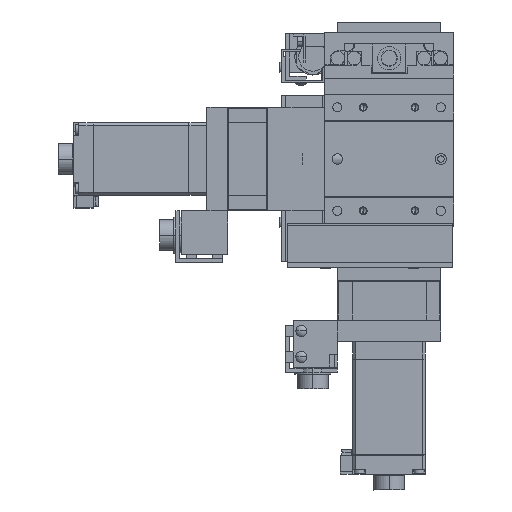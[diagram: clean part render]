
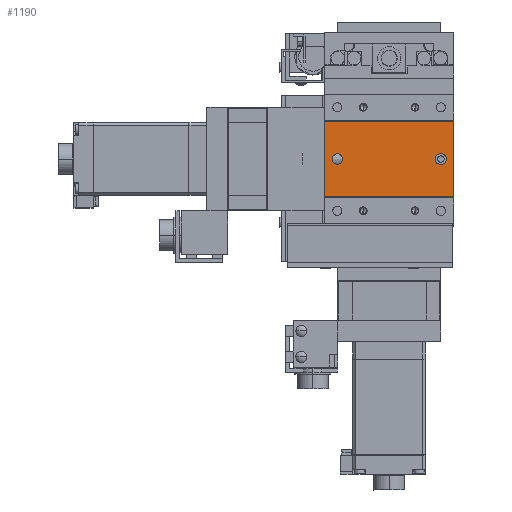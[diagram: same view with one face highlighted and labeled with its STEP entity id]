
A CAD part, front view. The second image highlights one B-rep face of the part: STEP entity #1190.
In plain terms, the highlighted planar face has unit normal (0, -1, 0).
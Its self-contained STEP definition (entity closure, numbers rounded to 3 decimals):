
#1190=ADVANCED_FACE('',(#3590,#3591,#3592),#3593,.F.);
#3590=FACE_BOUND('',#8130,.T.);
#3591=FACE_OUTER_BOUND('',#8131,.T.);
#3592=FACE_BOUND('',#8132,.T.);
#3593=PLANE('',#8133);
#8130=EDGE_LOOP('',(#14139,#14140,#14141,#14142));
#8131=EDGE_LOOP('',(#14143,#14144,#14145,#14146));
#8132=EDGE_LOOP('',(#14147,#14148,#14149));
#8133=AXIS2_PLACEMENT_3D('',#14150,#14151,#14152);
#14139=ORIENTED_EDGE('',*,*,#29898,.F.);
#14140=ORIENTED_EDGE('',*,*,#29899,.F.);
#14141=ORIENTED_EDGE('',*,*,#29900,.F.);
#14142=ORIENTED_EDGE('',*,*,#29901,.F.);
#14143=ORIENTED_EDGE('',*,*,#29883,.T.);
#14144=ORIENTED_EDGE('',*,*,#29902,.F.);
#14145=ORIENTED_EDGE('',*,*,#29903,.F.);
#14146=ORIENTED_EDGE('',*,*,#29904,.T.);
#14147=ORIENTED_EDGE('',*,*,#29788,.F.);
#14148=ORIENTED_EDGE('',*,*,#29787,.F.);
#14149=ORIENTED_EDGE('',*,*,#29905,.F.);
#14150=CARTESIAN_POINT('',(-25.,0.35,-14.65));
#14151=DIRECTION('',(0.,1.0,0.));
#14152=DIRECTION('',(-1.0,0.,0.));
#29787=EDGE_CURVE('',#35519,#35521,#35522,.F.);
#29788=EDGE_CURVE('',#35521,#35515,#35523,.F.);
#29883=EDGE_CURVE('',#35700,#35698,#35701,.T.);
#29898=EDGE_CURVE('',#35728,#35729,#35730,.F.);
#29899=EDGE_CURVE('',#35731,#35728,#35732,.T.);
#29900=EDGE_CURVE('',#35733,#35731,#35734,.F.);
#29901=EDGE_CURVE('',#35729,#35733,#35735,.T.);
#29902=EDGE_CURVE('',#35736,#35698,#35737,.T.);
#29903=EDGE_CURVE('',#35738,#35736,#35739,.T.);
#29904=EDGE_CURVE('',#35738,#35700,#35740,.T.);
#29905=EDGE_CURVE('',#35515,#35519,#35741,.F.);
#35515=VERTEX_POINT('',#44691);
#35519=VERTEX_POINT('',#44696);
#35521=VERTEX_POINT('',#44699);
#35522=CIRCLE('',#44700,2.0);
#35523=CIRCLE('',#44701,2.0);
#35698=VERTEX_POINT('',#44930);
#35700=VERTEX_POINT('',#44933);
#35701=LINE('',#44934,#44935);
#35728=VERTEX_POINT('',#44975);
#35729=VERTEX_POINT('',#44976);
#35730=CIRCLE('',#44977,2.0);
#35731=VERTEX_POINT('',#44978);
#35732=LINE('',#44979,#44980);
#35733=VERTEX_POINT('',#44981);
#35734=CIRCLE('',#44982,2.0);
#35735=LINE('',#44983,#44984);
#35736=VERTEX_POINT('',#44985);
#35737=LINE('',#44986,#44987);
#35738=VERTEX_POINT('',#44988);
#35739=LINE('',#44989,#44990);
#35740=LINE('',#44991,#44992);
#35741=CIRCLE('',#44993,2.0);
#44691=CARTESIAN_POINT('',(-18.0,0.35,0.));
#44696=CARTESIAN_POINT('',(-22.0,0.35,0.));
#44699=CARTESIAN_POINT('',(-20.,0.35,-2.));
#44700=AXIS2_PLACEMENT_3D('',#56939,#56940,#56941);
#44701=AXIS2_PLACEMENT_3D('',#56942,#56943,#56944);
#44930=CARTESIAN_POINT('',(25.,0.35,14.65));
#44933=CARTESIAN_POINT('',(25.,0.35,-14.65));
#44934=CARTESIAN_POINT('',(25.,0.35,-14.65));
#44935=VECTOR('',#57117,1000.0);
#44975=CARTESIAN_POINT('',(20.25,0.35,-2.));
#44976=CARTESIAN_POINT('',(20.25,0.35,2.));
#44977=AXIS2_PLACEMENT_3D('',#57134,#57135,#57136);
#44978=CARTESIAN_POINT('',(19.75,0.35,-2.));
#44979=CARTESIAN_POINT('',(-25.,0.35,-2.));
#44980=VECTOR('',#57137,1000.0);
#44981=CARTESIAN_POINT('',(19.75,0.35,2.));
#44982=AXIS2_PLACEMENT_3D('',#57138,#57139,#57140);
#44983=CARTESIAN_POINT('',(-25.,0.35,2.));
#44984=VECTOR('',#57141,1000.0);
#44985=CARTESIAN_POINT('',(-25.,0.35,14.65));
#44986=CARTESIAN_POINT('',(-25.,0.35,14.65));
#44987=VECTOR('',#57142,1000.0);
#44988=CARTESIAN_POINT('',(-25.,0.35,-14.65));
#44989=CARTESIAN_POINT('',(-25.,0.35,-14.65));
#44990=VECTOR('',#57143,1000.0);
#44991=CARTESIAN_POINT('',(-25.,0.35,-14.65));
#44992=VECTOR('',#57144,1000.0);
#44993=AXIS2_PLACEMENT_3D('',#57145,#57146,#57147);
#56939=CARTESIAN_POINT('',(-20.0,0.35,0.));
#56940=DIRECTION('',(0.,1.0,0.));
#56941=DIRECTION('',(0.,0.,-1.0));
#56942=CARTESIAN_POINT('',(-20.0,0.35,0.));
#56943=DIRECTION('',(0.,1.0,0.));
#56944=DIRECTION('',(0.,0.,-1.0));
#57117=DIRECTION('',(0.,0.,1.0));
#57134=CARTESIAN_POINT('',(20.25,0.35,0.));
#57135=DIRECTION('',(0.,1.0,0.));
#57136=DIRECTION('',(0.,0.,-1.0));
#57137=DIRECTION('',(1.0,0.,0.));
#57138=CARTESIAN_POINT('',(19.75,0.35,0.));
#57139=DIRECTION('',(0.,1.0,0.));
#57140=DIRECTION('',(0.,0.,-1.0));
#57141=DIRECTION('',(-1.0,0.,0.));
#57142=DIRECTION('',(1.0,0.,0.));
#57143=DIRECTION('',(0.,0.,1.0));
#57144=DIRECTION('',(1.0,0.,0.));
#57145=CARTESIAN_POINT('',(-20.0,0.35,0.));
#57146=DIRECTION('',(0.,1.0,0.));
#57147=DIRECTION('',(0.,0.,-1.0));
